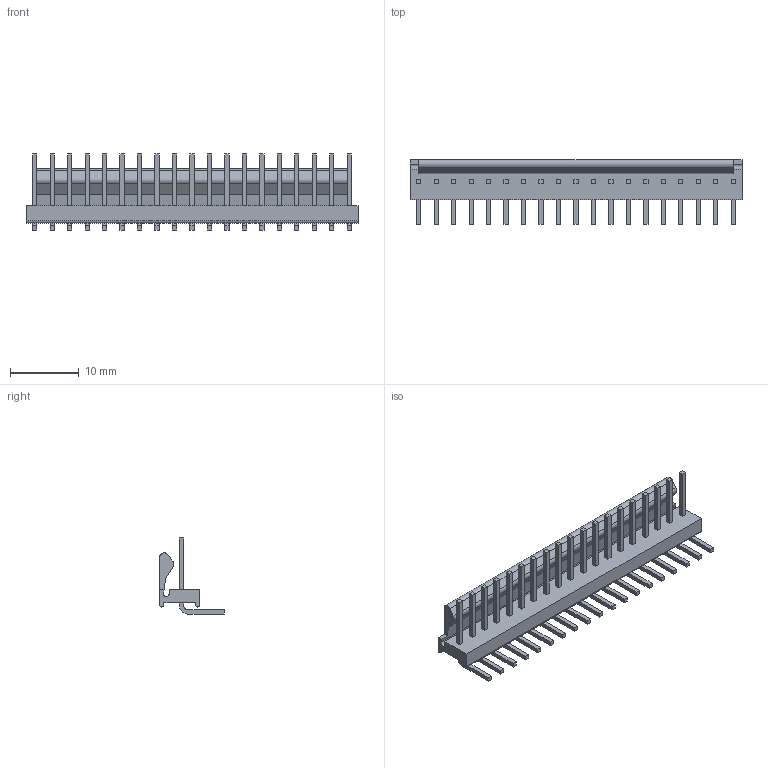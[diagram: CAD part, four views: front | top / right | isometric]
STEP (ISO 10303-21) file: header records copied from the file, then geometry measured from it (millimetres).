
FILE_DESCRIPTION((''),'2;1');
FILE_NAME('C-4-641127-9','2016-10-07T',('workeradm'),('Tyco Electronics Ltd.'),'CREO PARAMETRIC BY PTC INC, 2016050','CREO PARAMETRIC BY PTC INC, 2016050','');
FILE_SCHEMA(('AUTOMOTIVE_DESIGN { 1 0 10303 214 1 1 1 1 }'));
Length unit declared in the file: millimetre
Products named in the file (1): C-4-641127-9
Bounding box: 48.26 x 9.4 x 11.05 mm (x, y, z)
Volume: 955.8 mm3; surface area: 2178.2 mm2
Topology: 1 solids, 1 shells, 287 faces, 741 edges, 494 vertices
Faces by surface type: plane 244, cylinder 43
Entity records: 8685 total; most frequent: CARTESIAN_POINT 1524, ORIENTED_EDGE 1482, DIRECTION 1401, EDGE_CURVE 741, VECTOR 655, LINE 655, VERTEX_POINT 494, AXIS2_PLACEMENT_3D 373
